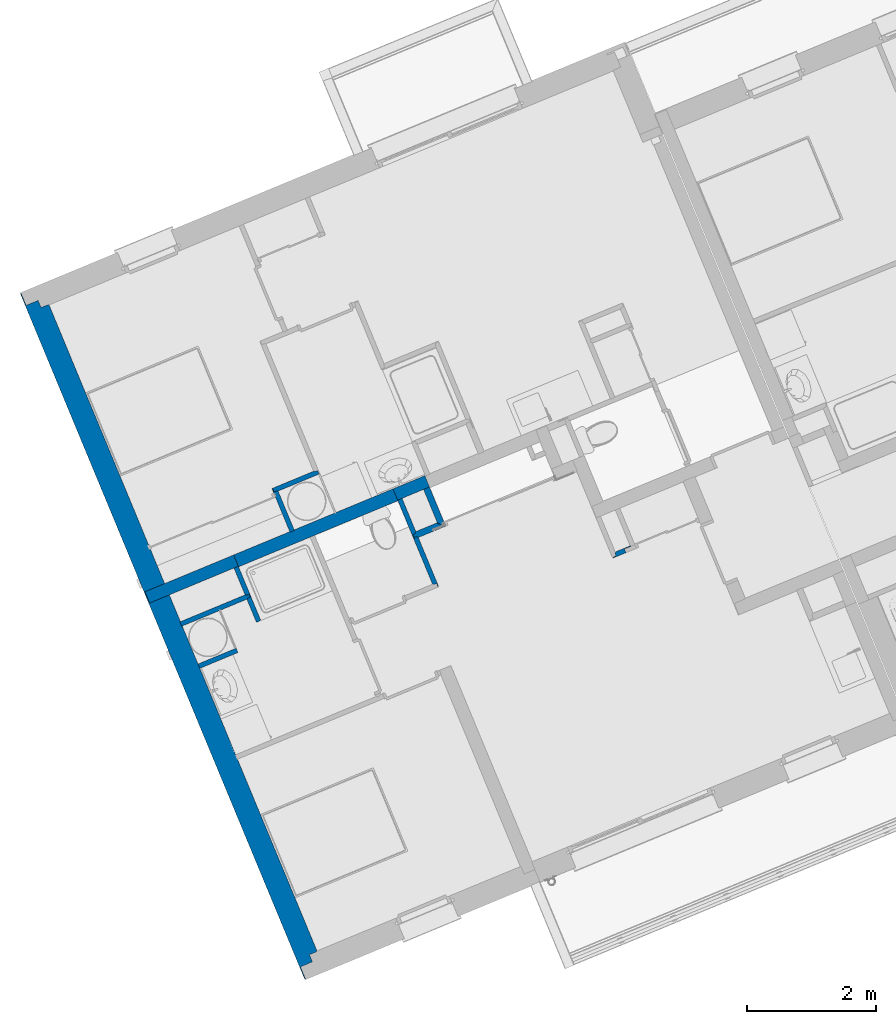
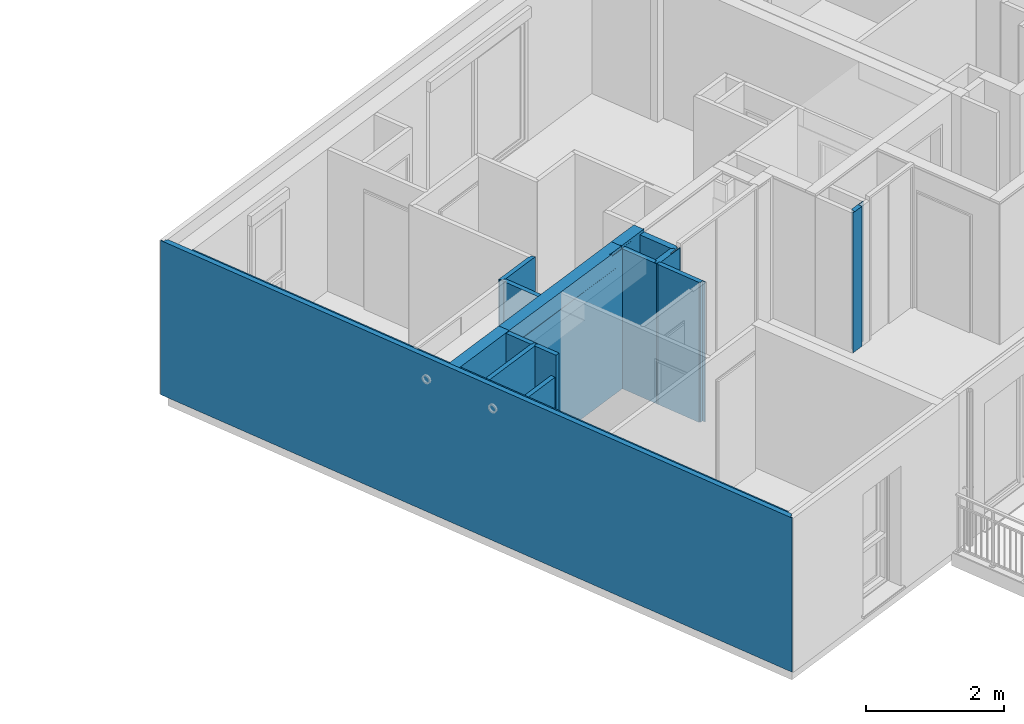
# One storey, part 39 of 90: 15 walls.
"""IFC2X3 building model written with IfcOpenShell, lengths in metres."""

from ifc_helpers import new_model, entity, si_unit, converted_unit, derived_unit, money_unit, direction, frame, origin_with_axes, place, context, subcontext, project, spatial, faceted_brep, material, material_list, type_object, element, save


model = new_model("IFC2X3")

# Units and contexts
model_context = context("Model", 3, precision=1e-05, world=origin_with_axes(), true_north=direction((0.0, 1.0)))
body_context = subcontext(model_context, "Body", "Model", "MODEL_VIEW")
ifc_project = project(units=[si_unit("LENGTHUNIT", "METRE"), si_unit("AREAUNIT", "SQUARE_METRE"), si_unit("VOLUMEUNIT", "CUBIC_METRE"), converted_unit("PLANEANGLEUNIT", "DEGREE", entity("IfcPlaneAngleMeasure", 0.0174532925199), si_unit("PLANEANGLEUNIT", "RADIAN"), dimensions=[0, 0, 0, 0, 0, 0, 0]), si_unit("SOLIDANGLEUNIT", "STERADIAN"), money_unit("EUR"), converted_unit("TIMEUNIT", "Year", entity("IfcTimeMeasure", 31556926.0), si_unit("TIMEUNIT", "SECOND"), dimensions=[0, 0, 1, 0, 0, 0, 0]), si_unit("MASSUNIT", "GRAM", prefix="KILO"), si_unit("THERMODYNAMICTEMPERATUREUNIT", "DEGREE_CELSIUS"), si_unit("LUMINOUSINTENSITYUNIT", "LUMEN"), si_unit("ENERGYUNIT", "JOULE", prefix="MEGA"), derived_unit("THERMALCONDUCTANCEUNIT", [(si_unit("POWERUNIT", "WATT"), 1), (si_unit("LENGTHUNIT", "METRE"), -1), (si_unit("THERMODYNAMICTEMPERATUREUNIT", "KELVIN"), -1)]), derived_unit("SPECIFICHEATCAPACITYUNIT", [(si_unit("ENERGYUNIT", "JOULE"), 1), (si_unit("MASSUNIT", "GRAM", prefix="KILO"), -1), (si_unit("THERMODYNAMICTEMPERATUREUNIT", "KELVIN"), -1)]), derived_unit("MASSDENSITYUNIT", [(si_unit("MASSUNIT", "GRAM", prefix="KILO"), 1), (si_unit("VOLUMEUNIT", "CUBIC_METRE"), -1)])], contexts=[model_context])

# Site, building, storey
site_placement = place(None, origin_with_axes())
site = spatial("IfcSite", under=ifc_project, at=site_placement, Name="Site", CompositionType="ELEMENT")
building_placement = place(site_placement, origin_with_axes())
building = spatial("IfcBuilding", under=site, at=building_placement, Name="Bâtiment", CompositionType="ELEMENT")
storey_placement = place(building_placement, frame((0.0, 0.0, 2.72), z_axis=(0.0, 0.0, 1.0), x_axis=(1.0, 0.0, 0.0)))
storey = spatial("IfcBuildingStorey", under=building, at=storey_placement, Name="R+1", CompositionType="ELEMENT", Elevation=2.72)

# Walls
ifc_material_1 = material(Name="Finition int - Plaque de plâtre")
ifc_material_2 = material(Name="Isolation - Polystyrène extrudé")
ifc_material_3 = material(Name="Bloc ELITHERM")
ifc_material_4 = material(Name="Isolation - Polystyrène expansé")
ifc_material_5 = material(Name="Mortier")
ifc_material_6 = material(Name="Béton cellulaire")
ifc_material_7 = material(Name="Finition ext - Crépis")
ifc_material_list_1 = material_list([ifc_material_1, ifc_material_2, ifc_material_3, ifc_material_4, ifc_material_5, ifc_material_6, ifc_material_7])
wall_type_1 = type_object("IfcWallType", Name="Mur ALKERN + planelle 21 345 x 2720", PredefinedType="USERDEFINED")
wall_1_placement = place(storey_placement, frame((-35.4006367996, -17.9386027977, 0.0), z_axis=(0.0, 0.0, 1.0), x_axis=(0.383112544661, -0.923701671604, 0.0)))
element("IfcWall", 1, at=wall_1_placement, inside=storey, type_object=wall_type_1, material=ifc_material_list_1, Name="Mue bloc ALKERN isolé", ObjectType="SOLIDWALL", context=body_context, shape_type="Brep", body=[
    faceted_brep([(11.1871872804, 0.34499998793, 0.0), (0.344999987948, 0.34499998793, 0.0), (0.344999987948, 0.34499998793, 2.51), (11.1871872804, 0.34499998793, 2.51), (11.1871872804, 0.335000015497, 0.0), (0.344999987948, 0.335000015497, 0.0), (0.344999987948, 0.335000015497, 2.51), (11.1871872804, 0.335000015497, 2.51)], [[[0, 1, 2, 3]], [[4, 5, 1, 0]], [[5, 6, 2, 1]], [[3, 2, 6, 7]], [[4, 0, 3, 7]], [[7, 6, 5, 4]]]),
    faceted_brep([(11.1971872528, 0.335000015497, 0.0), (0.335000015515, 0.335000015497, 0.0), (0.335000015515, 0.335000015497, 2.51), (11.1971872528, 0.335000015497, 2.51), (11.1971872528, 0.215000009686, 0.0), (0.335000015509, 0.215000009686, 0.0), (0.335000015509, 0.215000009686, 2.51), (11.1971872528, 0.215000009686, 2.51)], [[[0, 1, 2, 3]], [[4, 5, 1, 0]], [[5, 6, 2, 1]], [[3, 2, 6, 7]], [[4, 0, 3, 7]], [[7, 6, 5, 4]]]),
    faceted_brep([(0.214999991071, 0.214999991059, 0.0), (0.214999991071, 0.214999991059, 2.50999999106), (11.3171872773, 0.214999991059, 2.50999999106), (11.3171872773, 0.214999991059, 0.0), (0.214999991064, 0.0829999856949, 2.50999999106), (0.21499999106, 0.015, 0.0), (0.21499999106, 0.015, 2.50999999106), (11.3171872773, 0.0829999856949, 2.50999999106), (11.3171872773, 0.015, 2.50999999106), (11.3171872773, 0.015, 0.0)], [[[0, 1, 2, 3]], [[4, 1, 0, 5, 6]], [[1, 4, 7, 2]], [[3, 2, 7, 8, 9]], [[5, 0, 3, 9]], [[6, 5, 9, 8]], [[4, 6, 8, 7]]]),
    faceted_brep([(11.4491872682, 0.083000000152, 2.51999999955), (0.0830000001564, 0.083000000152, 2.51999999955), (0.0830000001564, 0.083000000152, 2.72), (11.4491872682, 0.083000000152, 2.72), (11.4491872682, 0.0630000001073, 2.51999999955), (0.0830000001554, 0.0630000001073, 2.51999999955), (0.0830000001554, 0.0630000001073, 2.72), (11.4491872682, 0.0630000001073, 2.72)], [[[0, 1, 2, 3]], [[4, 5, 1, 0]], [[5, 6, 2, 1]], [[3, 2, 6, 7]], [[4, 0, 3, 7]], [[7, 6, 5, 4]]]),
    faceted_brep([(0.0830000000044, 0.083, 2.51), (0.0830000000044, 0.083, 2.52), (11.4491872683, 0.083, 2.52), (11.4491872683, 0.083, 2.51), (0.0830000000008, 0.015, 2.52), (0.0830000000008, 0.015, 2.51), (11.4491872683, 0.015, 2.52), (11.4491872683, 0.015, 2.51)], [[[0, 1, 2, 3]], [[4, 1, 0, 5]], [[1, 4, 6, 2]], [[3, 2, 6, 7]], [[5, 0, 3, 7]], [[4, 5, 7, 6]]]),
    faceted_brep([(0.0629999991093, 0.0629999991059, 2.51999999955), (0.0629999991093, 0.0629999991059, 2.72), (11.4691872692, 0.0629999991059, 2.72), (11.4691872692, 0.0629999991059, 2.51999999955), (0.0629999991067, 0.015, 2.72), (0.0629999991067, 0.015, 2.51999999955), (11.4691872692, 0.015, 2.72), (11.4691872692, 0.015, 2.51999999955)], [[[0, 1, 2, 3]], [[4, 1, 0, 5]], [[1, 4, 6, 2]], [[3, 2, 6, 7]], [[5, 0, 3, 7]], [[4, 5, 7, 6]]]),
    faceted_brep([(0.0149999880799, 0.0149999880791, 2.72), (11.5171872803, 0.014999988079, 2.72), (11.5171872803, 0.014999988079, 0.0), (0.0149999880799, 0.0149999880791, 0.0), (0.0149999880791, 0.0, 2.72), (11.5171872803, 1.19209317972e-08, 2.72), (11.5171872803, 1.19209317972e-08, 0.0), (0.0149999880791, 0.0, 0.0)], [[[0, 1, 2, 3]], [[1, 0, 4, 5]], [[2, 1, 5, 6]], [[6, 7, 3, 2]], [[7, 4, 0, 3]], [[5, 4, 7, 6]]]),
])
ifc_material_8 = material(Name="Isolation - Laine de roche")
ifc_material_list_2 = material_list([ifc_material_1, ifc_material_8, ifc_material_1])
wall_type_2 = type_object("IfcWallType", Name="3 - Cloison 72mm Placostil 74", PredefinedType="USERDEFINED")
wall_2_placement = place(storey_placement, frame((-31.2182617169, -21.6405615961, 0.0), z_axis=(0.0, 0.0, 1.0), x_axis=(-0.383112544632, 0.923701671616, 0.0)))
element("IfcWall", 2, at=wall_2_placement, inside=storey, type_object=wall_type_2, material=ifc_material_list_2, Name="Cloison Placostil 72/48", ObjectType="PARTITIONING", context=body_context, shape_type="Brep", body=[
    faceted_brep([(0.589000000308, -0.013, 2.5), (0.58900000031, 0.0, 2.5), (-0.01, 0.0, 2.5), (-0.00999999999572, -0.013, 2.5), (0.589000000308, -0.013, 0.0), (0.58900000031, 0.0, 0.0), (-0.01, 0.0, 0.0), (-0.00999999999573, -0.013, 0.0)], [[[0, 1, 2, 3]], [[1, 0, 4, 5]], [[1, 5, 6, 2]], [[7, 3, 2, 6]], [[4, 0, 3, 7]], [[5, 4, 7, 6]]]),
    faceted_brep([(0.711000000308, -0.013, 2.5), (0.71100000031, 0.0, 2.5), (0.63700000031, 0.0, 2.5), (0.637000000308, -0.013, 2.5), (0.711000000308, -0.013, 0.0), (0.71100000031, 0.0, 0.0), (0.63700000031, 0.0, 0.0), (0.637000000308, -0.013, 0.0)], [[[0, 1, 2, 3]], [[1, 0, 4, 5]], [[1, 5, 6, 2]], [[7, 3, 2, 6]], [[4, 0, 3, 7]], [[5, 4, 7, 6]]]),
    faceted_brep([(0.663000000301, -0.061, 2.5), (0.663000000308, -0.013, 2.5), (-0.00999999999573, -0.013, 2.5), (-0.00999999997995, -0.061, 2.5), (0.663000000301, -0.061, 0.0), (0.663000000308, -0.013, 0.0), (-0.00999999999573, -0.013, 0.0), (-0.00999999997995, -0.061, 0.0)], [[[0, 1, 2, 3]], [[1, 0, 4, 5]], [[1, 5, 6, 2]], [[7, 3, 2, 6]], [[4, 0, 3, 7]], [[5, 4, 7, 6]]]),
    faceted_brep([(0.650000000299, -0.074, 2.5), (0.650000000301, -0.061, 2.5), (-0.00999999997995, -0.061, 2.5), (-0.00999999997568, -0.074, 2.5), (0.650000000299, -0.074, 0.0), (0.650000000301, -0.061, 0.0), (-0.00999999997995, -0.061, 0.0), (-0.00999999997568, -0.074, 0.0)], [[[0, 1, 2, 3]], [[1, 0, 4, 5]], [[1, 5, 6, 2]], [[7, 3, 2, 6]], [[4, 0, 3, 7]], [[5, 4, 7, 6]]]),
])
wall_3_placement = place(storey_placement, frame((-28.9087260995, -22.4949369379, 0.0), z_axis=(0.0, 0.0, 1.0), x_axis=(-0.383112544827, 0.923701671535, 0.0)))
element("IfcWall", 3, at=wall_3_placement, inside=storey, type_object=wall_type_2, material=ifc_material_list_2, Name="Cloison Placostil 72/48", ObjectType="PARTITIONING", context=body_context, shape_type="Brep", body=[
    faceted_brep([(0.826636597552, 0.061, 2.47), (0.0740000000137, 0.061, 2.47), (0.0740000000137, 0.061, 0.0), (0.826636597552, 0.061, 0.0), (0.0740000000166, 0.074, 2.47), (0.82663659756, 0.074, 2.47), (0.0740000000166, 0.074, 0.0), (0.82663659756, 0.074, 0.0)], [[[0, 1, 2, 3]], [[4, 1, 0, 5]], [[1, 4, 6, 2]], [[6, 7, 3, 2]], [[5, 0, 3, 7]], [[4, 5, 7, 6]]]),
    faceted_brep([(0.852636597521, 0.013, 2.47), (0.0610000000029, 0.013, 2.47), (0.0610000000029, 0.013, 0.0), (0.852636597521, 0.013, 0.0), (0.0610000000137, 0.061, 2.47), (0.852636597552, 0.061, 2.47), (0.0610000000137, 0.061, 0.0), (0.852636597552, 0.061, 0.0)], [[[0, 1, 2, 3]], [[4, 1, 0, 5]], [[1, 4, 6, 2]], [[6, 7, 3, 2]], [[5, 0, 3, 7]], [[4, 5, 7, 6]]]),
    faceted_brep([(0.826636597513, 0.0, 2.47), (0.013, 0.0, 2.47), (0.013, 0.0, 0.0), (0.826636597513, 0.0, 0.0), (0.0130000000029, 0.013, 2.47), (0.826636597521, 0.013, 2.47), (0.0130000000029, 0.013, 0.0), (0.826636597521, 0.013, 0.0)], [[[0, 1, 2, 3]], [[4, 1, 0, 5]], [[1, 4, 6, 2]], [[6, 7, 3, 2]], [[5, 0, 3, 7]], [[4, 5, 7, 6]]]),
])
wall_4_placement = place(storey_placement, frame((-26.2126020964, -22.0522410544, 0.0), z_axis=(0.0, 0.0, 1.0), x_axis=(0.923701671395, 0.383112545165, 0.0)))
element("IfcWall", 4, at=wall_4_placement, inside=storey, type_object=wall_type_2, material=ifc_material_list_2, Name="Cloison Placostil 72/48", ObjectType="PARTITIONING", context=body_context, shape_type="Brep", body=[
    faceted_brep([(0.336999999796, 0.074, 2.47), (0.33699999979, 0.061, 2.47), (0.33699999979, 0.061, 0.0), (0.336999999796, 0.074, 0.0), (0.0740000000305, 0.061, 2.47), (0.074000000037, 0.074, 2.47), (0.0740000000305, 0.061, 0.0), (0.074000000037, 0.074, 0.0)], [[[0, 1, 2, 3]], [[4, 1, 0, 5]], [[1, 4, 6, 2]], [[7, 3, 2, 6]], [[5, 0, 3, 7]], [[4, 5, 7, 6]]]),
    faceted_brep([(0.223999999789, 0.0610000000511, 2.47), (0.223999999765, 0.0130000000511, 2.47), (0.223999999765, 0.0130000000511, 0.0), (0.223999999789, 0.0610000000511, 0.0), (0.0610000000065, 0.013, 2.47), (0.0610000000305, 0.061, 2.47), (0.0610000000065, 0.013, 0.0), (0.0610000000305, 0.061, 0.0)], [[[0, 1, 2, 3]], [[4, 1, 0, 5]], [[1, 4, 6, 2]], [[7, 3, 2, 6]], [[5, 0, 3, 7]], [[4, 5, 7, 6]]]),
    faceted_brep([(0.223999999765, 0.0130000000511, 2.47), (0.223999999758, 0.0, 2.47), (0.223999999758, 0.0, 0.0), (0.223999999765, 0.0130000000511, 0.0), (0.013, 0.0, 2.47), (0.0130000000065, 0.013, 2.47), (0.013, 0.0, 0.0), (0.0130000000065, 0.013, 0.0)], [[[0, 1, 2, 3]], [[4, 1, 0, 5]], [[1, 4, 6, 2]], [[7, 3, 2, 6]], [[5, 0, 3, 7]], [[4, 5, 7, 6]]]),
])
wall_5_placement = place(storey_placement, frame((-30.8490440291, -20.7036228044, 0.0), z_axis=(0.0, 0.0, 1.0), x_axis=(-0.923701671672, -0.383112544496, 0.0)))
element("IfcWall", 5, at=wall_5_placement, inside=storey, type_object=wall_type_2, material=ifc_material_list_2, Name="Cloison Placostil 72/48", ObjectType="PARTITIONING", context=body_context, shape_type="Brep", body=[
    faceted_brep([(0.638999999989, 0.074, 0.0), (0.638999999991, 0.061, 0.0), (-0.074000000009, 0.061, 0.0), (-0.0740000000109, 0.074, 0.0), (0.638999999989, 0.074, 2.5), (0.638999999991, 0.061, 2.5), (-0.074000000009, 0.061, 2.5), (-0.0740000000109, 0.074, 2.5)], [[[0, 1, 2, 3]], [[1, 0, 4, 5]], [[1, 5, 6, 2]], [[7, 3, 2, 6]], [[4, 0, 3, 7]], [[5, 4, 7, 6]]]),
    faceted_brep([(0.686999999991, 0.061, 0.0), (0.686999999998, 0.013, 0.0), (-0.0610000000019, 0.013, 0.0), (-0.061000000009, 0.061, 0.0), (0.686999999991, 0.061, 2.5), (0.686999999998, 0.013, 2.5), (-0.0610000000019, 0.013, 2.5), (-0.061000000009, 0.061, 2.5)], [[[0, 1, 2, 3]], [[1, 0, 4, 5]], [[1, 5, 6, 2]], [[7, 3, 2, 6]], [[4, 0, 3, 7]], [[5, 4, 7, 6]]]),
    faceted_brep([(0.699999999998, 0.013, 0.0), (0.7, 0.0, 0.0), (-0.013, 0.0, 0.0), (-0.0130000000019, 0.013, 0.0), (0.699999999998, 0.013, 2.5), (0.7, 0.0, 2.5), (-0.013, 0.0, 2.5), (-0.0130000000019, 0.013, 2.5)], [[[0, 1, 2, 3]], [[1, 0, 4, 5]], [[1, 5, 6, 2]], [[7, 3, 2, 6]], [[4, 0, 3, 7]], [[5, 4, 7, 6]]]),
])
wall_6_placement = place(storey_placement, frame((-31.6669648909, -23.0175254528, 0.0), z_axis=(0.0, 0.0, 1.0), x_axis=(-0.383112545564, 0.923701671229, 0.0)))
element("IfcWall", 6, at=wall_6_placement, inside=storey, type_object=wall_type_2, material=ifc_material_list_2, Name="Cloison Placostil 72/48", ObjectType="PARTITIONING", context=body_context, shape_type="Brep", body=[
    faceted_brep([(0.0, 0.061, 0.0), (0.387000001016, 0.061, 0.0), (0.387000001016, 0.061, 2.5), (0.0, 0.061, 2.5), (0.0, 0.074, 0.0), (0.387000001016, 0.074, 0.0), (0.387000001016, 0.074, 2.5), (0.0, 0.074, 2.5)], [[[0, 1, 2, 3]], [[4, 5, 1, 0]], [[5, 6, 2, 1]], [[3, 2, 6, 7]], [[0, 3, 7, 4]], [[7, 6, 5, 4]]]),
    faceted_brep([(0.0, 0.013, 0.0), (0.400000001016, 0.013, 0.0), (0.400000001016, 0.013, 2.5), (0.0, 0.013, 2.5), (0.0, 0.061, 0.0), (0.400000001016, 0.061, 0.0), (0.400000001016, 0.061, 2.5), (0.0, 0.061, 2.5)], [[[0, 1, 2, 3]], [[4, 5, 1, 0]], [[5, 6, 2, 1]], [[3, 2, 6, 7]], [[0, 3, 7, 4]], [[7, 6, 5, 4]]]),
    faceted_brep([(0.0, 0.0, 0.0), (0.387000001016, 0.0, 0.0), (0.387000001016, 0.0, 2.5), (0.0, 0.0, 2.5), (0.0, 0.013, 0.0), (0.387000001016, 0.013, 0.0), (0.387000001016, 0.013, 2.5), (0.0, 0.013, 2.5)], [[[0, 1, 2, 3]], [[4, 5, 1, 0]], [[5, 6, 2, 1]], [[3, 2, 6, 7]], [[0, 3, 7, 4]], [[7, 6, 5, 4]]]),
])
wall_7_placement = place(storey_placement, frame((-32.612626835, -23.7601022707, 0.0), z_axis=(0.0, 0.0, 1.0), x_axis=(0.92370167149, 0.383112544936, 0.0)))
element("IfcWall", 7, at=wall_7_placement, inside=storey, type_object=wall_type_2, material=ifc_material_list_2, Name="Cloison Placostil 72/48", ObjectType="PARTITIONING", context=body_context, shape_type="Brep", body=[
    faceted_brep([(0.0, 0.074, 0.0), (0.640000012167, 0.074, 0.0), (0.640000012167, 0.061, 0.0), (0.0, 0.061, 0.0), (0.0, 0.074, 2.5), (0.640000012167, 0.074, 2.5), (0.640000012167, 0.061, 2.5), (0.0, 0.061, 2.5)], [[[0, 1, 2, 3]], [[4, 5, 1, 0]], [[2, 1, 5, 6]], [[3, 2, 6, 7]], [[4, 0, 3, 7]], [[7, 6, 5, 4]]]),
    faceted_brep([(0.0, 0.061, 0.0), (0.640000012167, 0.061, 0.0), (0.640000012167, 0.013, 0.0), (0.0, 0.013, 0.0), (0.0, 0.061, 2.5), (0.640000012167, 0.061, 2.5), (0.640000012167, 0.013, 2.5), (0.0, 0.013, 2.5)], [[[0, 1, 2, 3]], [[4, 5, 1, 0]], [[2, 1, 5, 6]], [[3, 2, 6, 7]], [[4, 0, 3, 7]], [[7, 6, 5, 4]]]),
    faceted_brep([(0.0, 0.013, 0.0), (0.640000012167, 0.013, 0.0), (0.640000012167, 0.0, 0.0), (0.0, 0.0, 0.0), (0.0, 0.013, 2.5), (0.640000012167, 0.013, 2.5), (0.640000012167, 0.0, 2.5), (0.0, 0.0, 2.5)], [[[0, 1, 2, 3]], [[4, 5, 1, 0]], [[2, 1, 5, 6]], [[3, 2, 6, 7]], [[4, 0, 3, 7]], [[7, 6, 5, 4]]]),
])
ifc_material_9 = material(Name="Finition int - Enduit plâtre")
ifc_material_10 = material(Name="Béton")
ifc_material_list_3 = material_list([ifc_material_9, ifc_material_10, ifc_material_9])
wall_type_3 = type_object("IfcWallType", Name="2 - Murs Béton 18 + Enduit 2 Faces 200", PredefinedType="USERDEFINED")
wall_8_placement = place(storey_placement, frame((-32.0883886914, -22.0014536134, 0.0), z_axis=(0.0, 0.0, 1.0), x_axis=(0.92370167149, 0.383112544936, 0.0)))
element("IfcWall", 8, at=wall_8_placement, inside=storey, type_object=wall_type_3, material=ifc_material_list_3, Name="M_Ext-008", ObjectType="SOLIDWALL", context=body_context, shape_type="Brep", body=[
    faceted_brep([(2.67399999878, 0.0, 2.51), (2.67399999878, -0.01, 2.51), (2.67399999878, -0.01, 0.0), (2.67399999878, 0.0, 0.0), (0.0, -0.01, 2.51), (0.0, 0.0, 2.51), (0.0, -0.01, 0.0), (0.941999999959, -0.01, 0.0), (0.941999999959, -0.01, 2.5), (1.01599999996, -0.01, 2.5), (1.01599999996, -0.01, 0.0), (1.69600000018, -0.01, 0.0), (1.69600000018, -0.01, 1.0), (1.71600000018, -0.01, 1.0), (1.71600000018, -0.01, 0.0), (1.71600000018, 0.0, 0.0), (1.71600000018, 0.0, 1.0), (1.69600000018, 0.0, 1.0), (1.69600000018, 0.0, 0.0), (1.01599999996, 0.0, 0.0), (1.01599999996, 0.0, 2.5), (0.941999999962, 0.0, 2.5), (0.941999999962, 0.0, 0.0), (0.0, 0.0, 0.0)], [[[0, 1, 2, 3]], [[4, 1, 0, 5]], [[1, 4, 6, 7, 8, 9, 10, 11, 12, 13, 14, 2]], [[2, 14, 15, 3]], [[5, 0, 3, 15, 16, 17, 18, 19, 20, 21, 22, 23]], [[4, 5, 23, 6]], [[23, 22, 7, 6]], [[21, 8, 7, 22]], [[20, 9, 8, 21]], [[19, 10, 9, 20]], [[19, 18, 11, 10]], [[17, 12, 11, 18]], [[16, 13, 12, 17]], [[15, 14, 13, 16]]]),
    faceted_brep([(2.67399999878, -0.18919041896, 2.52), (2.67399999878, -0.18919041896, 2.47), (2.67399999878, -0.19, 2.47), (2.67399999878, -0.19, 0.0), (2.67399999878, -0.01, 0.0), (2.67399999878, -0.01, 2.51), (2.67399999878, -0.170454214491, 2.51), (2.67399999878, -0.170454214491, 2.52), (2.42692822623, -0.189106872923, 2.52), (2.42692822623, -0.189106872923, 2.47), (2.42692822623, -0.19, 2.47), (2.42692822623, -0.19, 2.52), (2.40692817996, -0.19, 2.52), (2.40692820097, -0.19, 2.51), (0.0, -0.19, 2.51), (0.0, -0.19, 0.0), (0.0, -0.01, 0.0), (0.0, -0.01, 2.51), (2.40692820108, -0.168273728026, 2.51), (2.40692820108, -0.168273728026, 2.52)], [[[0, 1, 2, 3, 4, 5, 6, 7]], [[1, 0, 8, 9]], [[10, 2, 1, 9]], [[10, 11, 12, 13, 14, 15, 3, 2]], [[16, 4, 3, 15]], [[17, 5, 4, 16]], [[6, 5, 17, 14, 13, 18]], [[19, 7, 6, 18]], [[8, 0, 7, 19, 12, 11]], [[8, 11, 10, 9]], [[13, 12, 19, 18]], [[14, 17, 16, 15]]]),
    faceted_brep([(0.0, -0.2, 0.02), (2.67399998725, -0.200000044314, 0.02), (2.67399999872, -0.200000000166, 2.21), (1.35209177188e-10, -0.2, 2.21), (0.0, -0.193021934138, 0.02), (2.67399998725, -0.200000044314, 0.0), (2.67399999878, -0.19, 0.0), (2.67399999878, -0.19, 2.47), (2.67399999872, -0.200000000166, 2.47), (1.29112720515e-10, -0.19, 2.21), (0.0, -0.19, 0.0), (0.0, -0.193021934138, 0.0), (2.42692822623, -0.19, 2.52), (2.42692822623, -0.19, 2.47), (1.29112720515e-10, -0.19, 2.51), (2.40692820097, -0.19, 2.51), (2.40692817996, -0.19, 2.52), (2.4269282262, -0.199076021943, 2.47), (2.4269282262, -0.199076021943, 2.51), (2.40692820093, -0.199001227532, 2.51), (2.4269282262, -0.2, 2.52), (2.4269282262, -0.200000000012, 2.51), (2.40692820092, -0.2, 2.51), (2.40692817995, -0.2, 2.52)], [[[0, 1, 2, 3]], [[1, 0, 4]], [[1, 5, 6, 7, 8, 2]], [[2, 9, 3]], [[4, 0, 3, 9, 10, 11]], [[5, 1, 4, 11]], [[5, 11, 10, 6]], [[12, 13, 7, 6, 10, 9, 14, 15, 16]], [[13, 17, 8, 7]], [[8, 17, 18, 19, 14, 9, 2]], [[13, 12, 20, 21, 18, 17]], [[19, 15, 14]], [[16, 15, 19, 22, 23]], [[23, 20, 12, 16]], [[19, 18, 21, 22]], [[22, 21, 20, 23]]]),
])
wall_type_4 = type_object("IfcWallType", Name="3 - Cloison Gaine Technique 72mm 74", PredefinedType="USERDEFINED")
wall_9_placement = place(storey_placement, frame((-31.8152294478, -22.6600529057, 0.0), z_axis=(0.0, 0.0, 1.0), x_axis=(-0.923701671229, -0.383112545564, 0.0)))
element("IfcWall", 9, at=wall_9_placement, inside=storey, type_object=wall_type_4, material=ifc_material_list_2, Name="Cloison Placostil 72/48", ObjectType="PARTITIONING", context=body_context, shape_type="Brep", body=[
    faceted_brep([(1.16799999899, 0.0, 0.0), (0.537999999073, 0.0, 0.0), (0.537999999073, 0.0, 1.0), (0.517999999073, 0.0, 1.0), (0.517999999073, 0.0, 0.0), (0.0609999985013, 0.0, 0.0), (0.0609999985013, 0.0, 2.5), (1.16799999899, 0.0, 2.5), (1.16799999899, -0.013, 0.0), (0.537999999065, -0.013, 0.0), (0.537999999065, -0.013, 1.0), (0.517999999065, -0.013, 1.0), (0.517999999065, -0.013, 0.0), (0.0609999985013, -0.013, 0.0), (0.0609999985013, -0.013, 2.5), (1.16799999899, -0.013, 2.5)], [[[0, 1, 2, 3, 4, 5, 6, 7]], [[8, 9, 1, 0]], [[10, 2, 1, 9]], [[11, 3, 2, 10]], [[12, 4, 3, 11]], [[5, 4, 12, 13]], [[13, 14, 6, 5]], [[7, 6, 14, 15]], [[0, 7, 15, 8]], [[11, 10, 9, 8, 15, 14, 13, 12]]]),
    faceted_brep([(-1.49868384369e-09, -0.013, 2.5), (0.0129999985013, -0.013, 2.5), (0.0129999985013, 0.0, 2.5), (-1.49868384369e-09, 0.0, 2.5), (-1.49868384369e-09, -0.013, 0.0), (0.0129999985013, -0.013, 0.0), (0.0129999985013, 0.0, 0.0), (-1.49868384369e-09, 0.0, 0.0)], [[[0, 1, 2, 3]], [[4, 5, 1, 0]], [[5, 6, 2, 1]], [[3, 2, 6, 7]], [[7, 4, 0, 3]], [[7, 6, 5, 4]]]),
    faceted_brep([(0.0129999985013, -0.013, 2.5), (0.0129999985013, -0.061, 2.5), (1.16799999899, -0.061, 2.5), (1.16799999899, -0.013, 2.5), (0.0129999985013, -0.013, 0.0), (0.0129999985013, -0.061, 0.0), (1.16799999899, -0.061, 0.0), (1.16799999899, -0.013, 0.0)], [[[0, 1, 2, 3]], [[4, 5, 1, 0]], [[1, 5, 6, 2]], [[7, 3, 2, 6]], [[4, 0, 3, 7]], [[5, 4, 7, 6]]]),
    faceted_brep([(0.0609999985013, -0.074, 2.5), (1.16799999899, -0.074, 2.5), (1.16799999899, -0.061, 2.5), (0.0609999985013, -0.061, 2.5), (0.0609999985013, -0.074, 0.0), (1.16799999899, -0.074, 0.0), (1.16799999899, -0.061, 0.0), (0.0609999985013, -0.061, 0.0)], [[[0, 1, 2, 3]], [[4, 5, 1, 0]], [[2, 1, 5, 6]], [[3, 2, 6, 7]], [[4, 0, 3, 7]], [[7, 6, 5, 4]]]),
])
wall_10_placement = place(storey_placement, frame((-31.8152294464, -22.6600529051, 0.0), z_axis=(0.0, 0.0, 1.0), x_axis=(-0.383112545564, 0.923701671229, 0.0)))
element("IfcWall", 10, at=wall_10_placement, inside=storey, type_object=wall_type_4, material=ifc_material_list_2, Name="Cloison Placostil 72/48", ObjectType="PARTITIONING", context=body_context, shape_type="Brep", body=[
    faceted_brep([(0.074, 0.074, 0.0), (0.523000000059, 0.074, 0.0), (0.523000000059, 0.061, 0.0), (0.074, 0.061, 0.0), (0.074, 0.074, 2.5), (0.523000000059, 0.074, 2.5), (0.523000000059, 0.061, 2.5), (0.074, 0.061, 2.5)], [[[0, 1, 2, 3]], [[4, 5, 1, 0]], [[2, 1, 5, 6]], [[3, 2, 6, 7]], [[4, 0, 3, 7]], [[7, 6, 5, 4]]]),
    faceted_brep([(0.061, 0.061, 0.0), (0.523000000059, 0.061, 0.0), (0.523000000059, 0.013, 0.0), (0.061, 0.013, 0.0), (0.061, 0.061, 2.5), (0.523000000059, 0.061, 2.5), (0.523000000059, 0.013, 2.5), (0.061, 0.013, 2.5)], [[[0, 1, 2, 3]], [[4, 5, 1, 0]], [[2, 1, 5, 6]], [[3, 2, 6, 7]], [[4, 0, 3, 7]], [[7, 6, 5, 4]]]),
    faceted_brep([(0.013, 0.0, 0.0), (0.013, 0.013, 0.0), (0.523000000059, 0.013, 0.0), (0.523000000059, 0.0, 0.0), (0.013, 0.0, 2.5), (0.013, 0.013, 2.5), (0.523000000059, 0.013, 2.5), (0.523000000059, 0.0, 2.5)], [[[0, 1, 2, 3]], [[4, 5, 1, 0]], [[1, 5, 6, 2]], [[7, 3, 2, 6]], [[4, 0, 3, 7]], [[5, 4, 7, 6]]]),
])
wall_11_placement = place(storey_placement, frame((-29.22542095, -21.7313713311, 0.0), z_axis=(0.0, 0.0, 1.0), x_axis=(-0.383112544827, 0.923701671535, 0.0)))
element("IfcWall", 11, at=wall_11_placement, inside=storey, type_object=wall_type_4, material=ifc_material_list_2, Name="Cloison Placostil 72/48", ObjectType="PARTITIONING", context=body_context, shape_type="Brep", body=[
    faceted_brep([(0.657363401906, 0.061, 2.47), (0.0260000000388, 0.061, 2.47), (0.0260000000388, 0.061, 0.0), (0.657363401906, 0.061, 0.0), (0.026000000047, 0.074, 2.47), (0.657363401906, 0.074, 2.47), (0.026000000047, 0.074, 0.0), (0.657363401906, 0.074, 0.0)], [[[0, 1, 2, 3]], [[4, 1, 0, 5]], [[1, 4, 6, 2]], [[2, 6, 7, 3]], [[5, 0, 3, 7]], [[4, 5, 7, 6]]]),
    faceted_brep([(0.657363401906, 0.013, 2.47), (0.0740000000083, 0.013, 2.47), (0.0740000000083, 0.013, 0.0), (0.657363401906, 0.013, 0.0), (0.0740000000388, 0.061, 2.47), (0.657363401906, 0.061, 2.47), (0.0740000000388, 0.061, 0.0), (0.657363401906, 0.061, 0.0)], [[[0, 1, 2, 3]], [[4, 1, 0, 5]], [[1, 4, 6, 2]], [[6, 7, 3, 2]], [[5, 0, 3, 7]], [[4, 5, 7, 6]]]),
    faceted_brep([(0.657363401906, 0.0, 2.47), (0.1, 0.0, 2.47), (0.1, 0.0, 0.0), (0.657363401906, 0.0, 0.0), (0.100000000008, 0.013, 2.47), (0.657363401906, 0.013, 2.47), (0.100000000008, 0.013, 0.0), (0.657363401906, 0.013, 0.0)], [[[0, 1, 2, 3]], [[4, 1, 0, 5]], [[1, 4, 6, 2]], [[6, 7, 3, 2]], [[5, 0, 3, 7]], [[4, 5, 7, 6]]]),
])
ifc_material_list_4 = material_list([ifc_material_9, ifc_material_10])
wall_type_5 = type_object("IfcWallType", Name="2 - Murs Béton 18 + Enduit 1 Face 190", PredefinedType="USERDEFINED")
wall_12_placement = place(storey_placement, frame((-29.618410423, -20.9770106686, 0.0), z_axis=(0.0, 0.0, 1.0), x_axis=(0.923701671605, 0.383112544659, 0.0)))
element("IfcWall", 12, at=wall_12_placement, inside=storey, type_object=wall_type_5, material=ifc_material_list_4, Name="M_Ext-008", ObjectType="SOLIDWALL", context=body_context, shape_type="Brep", body=[
    faceted_brep([(0.534000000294, 0.0, 2.51), (0.534000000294, -0.01, 2.51), (0.534000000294, -0.01, 0.0), (0.534000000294, 0.0, 0.0), (0.0, -0.01, 2.51), (0.0, 0.0, 2.51), (0.0, -0.01, 0.0), (0.0, 0.0, 0.0)], [[[0, 1, 2, 3]], [[4, 1, 0, 5]], [[1, 4, 6, 2]], [[7, 3, 2, 6]], [[5, 0, 3, 7]], [[4, 5, 7, 6]]]),
    faceted_brep([(0.534000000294, -0.18937098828, 2.52), (0.534000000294, -0.18937098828, 2.47), (0.534000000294, -0.19, 2.47), (0.534000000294, -0.19, 0.0), (0.534000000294, -0.01, 0.0), (0.534000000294, -0.01, 2.51), (0.534000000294, -0.174814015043, 2.51), (0.534000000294, -0.174814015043, 2.52), (0.0, -0.189190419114, 2.52), (0.0, -0.189190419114, 2.47), (0.0, -0.19, 2.47), (0.0, -0.19, 0.0), (0.0, -0.01, 0.0), (0.0, -0.01, 2.51), (0.0, -0.170454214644, 2.51), (0.0, -0.170454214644, 2.52)], [[[0, 1, 2, 3, 4, 5, 6, 7]], [[1, 0, 8, 9]], [[10, 2, 1, 9]], [[2, 10, 11, 3]], [[12, 4, 3, 11]], [[13, 5, 4, 12]], [[6, 5, 13, 14]], [[15, 7, 6, 14]], [[8, 0, 7, 15]], [[9, 8, 15, 14, 13, 12, 11, 10]]]),
])
wall_13_placement = place(storey_placement, frame((-33.4628567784, -22.5715250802, 0.0), z_axis=(0.0, 0.0, 1.0), x_axis=(0.92370167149, 0.383112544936, 0.0)))
element("IfcWall", 13, at=wall_13_placement, inside=storey, type_object=wall_type_5, material=ifc_material_list_4, Name="M_Ext-008", ObjectType="SOLIDWALL", context=body_context, shape_type="Brep", body=[
    faceted_brep([(1.48799999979, 0.0, 2.51), (1.48799999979, -0.01, 2.51), (1.48799999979, -0.01, 0.0), (1.48799999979, 0.0, 0.0), (0.0679999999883, -0.01, 2.51), (0.0679999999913, 0.0, 2.51), (0.0679999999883, -0.01, 2.52), (0.0, -0.01, 2.52), (0.0, -0.01, 0.0), (0.0, 0.0, 0.0), (0.0, 0.0, 2.52), (0.0679999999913, 0.0, 2.52)], [[[0, 1, 2, 3]], [[4, 1, 0, 5]], [[4, 6, 7, 8, 2, 1]], [[9, 3, 2, 8]], [[5, 0, 3, 9, 10, 11]], [[11, 6, 4, 5]], [[6, 11, 10, 7]], [[10, 9, 8, 7]]]),
    faceted_brep([(1.48799999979, -0.01, 2.51), (1.48799999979, -0.19, 2.51), (1.48799999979, -0.19, 0.0), (1.48799999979, -0.01, 0.0), (0.0679999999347, -0.19, 2.51), (0.0679999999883, -0.01, 2.51), (0.0679999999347, -0.19, 2.52), (0.0, -0.19, 2.52), (0.0, -0.19, 0.0), (0.0, -0.01, 0.0), (0.0, -0.01, 2.52), (0.0679999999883, -0.01, 2.52)], [[[0, 1, 2, 3]], [[4, 1, 0, 5]], [[4, 6, 7, 8, 2, 1]], [[9, 3, 2, 8]], [[5, 0, 3, 9, 10, 11]], [[11, 6, 4, 5]], [[6, 11, 10, 7]], [[10, 9, 8, 7]]]),
])
ifc_material_list_5 = material_list([ifc_material_1, ifc_material_1, ifc_material_8, ifc_material_1, ifc_material_1])
wall_type_6 = type_object("IfcWallType", Name="3 - Cloison Gaine Technique 98mm 100", PredefinedType="USERDEFINED")
wall_14_placement = place(storey_placement, frame((-28.8005181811, -21.5551395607, 0.0), z_axis=(0.0, 0.0, 1.0), x_axis=(-0.923701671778, -0.38311254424, 0.0)))
element("IfcWall", 14, at=wall_14_placement, inside=storey, type_object=wall_type_6, material=ifc_material_list_5, Name="Cloison 98 isolée", ObjectType="PARTITIONING", context=body_context, shape_type="Brep", body=[
    faceted_brep([(0.520999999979, -0.013, 2.47), (0.520999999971, 0.0, 2.47), (0.520999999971, 0.0, 0.0), (0.520999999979, -0.013, 0.0), (0.533999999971, 0.0, 2.47), (0.533999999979, -0.013, 2.47), (0.533999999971, 0.0, 0.0), (0.533999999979, -0.013, 0.0)], [[[0, 1, 2, 3]], [[4, 1, 0, 5]], [[1, 4, 6, 2]], [[7, 3, 2, 6]], [[5, 0, 3, 7]], [[4, 5, 7, 6]]]),
    faceted_brep([(0.0130000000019, -0.013, 2.47), (0.013, 0.0, 2.47), (0.013, 0.0, 0.0), (0.0130000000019, -0.013, 0.0), (0.472999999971, 0.0, 2.47), (0.472999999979, -0.013, 2.47), (0.472999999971, 0.0, 0.0), (0.472999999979, -0.013, 0.0)], [[[0, 1, 2, 3]], [[4, 1, 0, 5]], [[1, 4, 6, 2]], [[2, 6, 7, 3]], [[5, 0, 3, 7]], [[4, 5, 7, 6]]]),
    faceted_brep([(0.520999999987, -0.026, 2.47), (0.520999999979, -0.013, 2.47), (0.520999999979, -0.013, 0.0), (0.520999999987, -0.026, 0.0), (0.533999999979, -0.013, 2.47), (0.533999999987, -0.026, 2.47), (0.533999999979, -0.013, 0.0), (0.533999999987, -0.026, 0.0)], [[[0, 1, 2, 3]], [[4, 1, 0, 5]], [[1, 4, 6, 2]], [[7, 3, 2, 6]], [[5, 0, 3, 7]], [[4, 5, 7, 6]]]),
    faceted_brep([(0.200000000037, -0.0259999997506, 2.47), (0.200000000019, -0.012999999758, 2.47), (0.200000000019, -0.012999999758, 0.0), (0.200000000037, -0.0259999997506, 0.0), (0.472999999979, -0.013, 2.47), (0.472999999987, -0.026, 2.47), (0.472999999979, -0.013, 0.0), (0.472999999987, -0.026, 0.0)], [[[0, 1, 2, 3]], [[4, 1, 0, 5]], [[1, 4, 6, 2]], [[7, 3, 2, 6]], [[5, 0, 3, 7]], [[4, 5, 7, 6]]]),
    faceted_brep([(0.0740000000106, -0.074, 2.47), (0.0740000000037, -0.026, 2.47), (0.0740000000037, -0.026, 0.0), (0.0740000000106, -0.074, 0.0), (0.520999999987, -0.026, 2.47), (0.521000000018, -0.074, 2.47), (0.520999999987, -0.026, 0.0), (0.521000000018, -0.074, 0.0)], [[[0, 1, 2, 3]], [[4, 1, 0, 5]], [[1, 4, 6, 2]], [[2, 6, 7, 3]], [[5, 0, 3, 7]], [[4, 5, 7, 6]]]),
    faceted_brep([(0.0870000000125, -0.087, 2.47), (0.0870000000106, -0.074, 2.47), (0.0870000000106, -0.074, 0.0), (0.0870000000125, -0.087, 0.0), (0.473000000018, -0.074, 2.47), (0.473000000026, -0.087, 2.47), (0.473000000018, -0.074, 0.0), (0.473000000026, -0.087, 0.0)], [[[0, 1, 2, 3]], [[4, 1, 0, 5]], [[1, 4, 6, 2]], [[2, 6, 7, 3]], [[5, 0, 3, 7]], [[4, 5, 7, 6]]]),
    faceted_brep([(0.100000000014, -0.1, 2.47), (0.100000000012, -0.087, 2.47), (0.100000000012, -0.087, 0.0), (0.100000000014, -0.1, 0.0), (0.473000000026, -0.087, 2.47), (0.473000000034, -0.1, 2.47), (0.473000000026, -0.087, 0.0), (0.473000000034, -0.1, 0.0)], [[[0, 1, 2, 3]], [[4, 1, 0, 5]], [[1, 4, 6, 2]], [[2, 6, 7, 3]], [[5, 0, 3, 7]], [[4, 5, 7, 6]]]),
])
wall_15_placement = place(storey_placement, frame((-28.8005181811, -21.5551395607, 0.0), z_axis=(0.0, 0.0, 1.0), x_axis=(-0.383112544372, 0.923701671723, 0.0)))
element("IfcWall", 15, at=wall_15_placement, inside=storey, type_object=wall_type_6, material=ifc_material_list_5, Name="Cloison 98 isolée", ObjectType="PARTITIONING", context=body_context, shape_type="Brep", body=[
    faceted_brep([(0.657363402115, 0.087, 2.47), (0.0870000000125, 0.087, 2.47), (0.0870000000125, 0.087, 0.0), (0.657363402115, 0.087, 0.0), (0.0870000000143, 0.1, 2.47), (0.657363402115, 0.1, 2.47), (0.0870000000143, 0.1, 0.0), (0.657363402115, 0.1, 0.0)], [[[0, 1, 2, 3]], [[4, 1, 0, 5]], [[1, 4, 6, 2]], [[2, 6, 7, 3]], [[5, 0, 3, 7]], [[4, 5, 7, 6]]]),
    faceted_brep([(0.657363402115, 0.074, 2.47), (0.0740000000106, 0.074, 2.47), (0.0740000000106, 0.074, 0.0), (0.657363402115, 0.074, 0.0), (0.0740000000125, 0.087, 2.47), (0.657363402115, 0.087, 2.47), (0.0740000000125, 0.087, 0.0), (0.657363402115, 0.087, 0.0)], [[[0, 1, 2, 3]], [[4, 1, 0, 5]], [[1, 4, 6, 2]], [[2, 6, 7, 3]], [[5, 0, 3, 7]], [[4, 5, 7, 6]]]),
    faceted_brep([(0.657363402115, 0.026, 2.47), (0.0260000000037, 0.026, 2.47), (0.0260000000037, 0.026, 0.0), (0.657363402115, 0.026, 0.0), (0.0260000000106, 0.074, 2.47), (0.657363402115, 0.074, 2.47), (0.0260000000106, 0.074, 0.0), (0.657363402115, 0.074, 0.0)], [[[0, 1, 2, 3]], [[4, 1, 0, 5]], [[1, 4, 6, 2]], [[2, 6, 7, 3]], [[5, 0, 3, 7]], [[4, 5, 7, 6]]]),
    faceted_brep([(0.657363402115, 0.013, 2.47), (0.0610000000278, 0.013, 2.47), (0.0610000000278, 0.013, 0.0), (0.657363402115, 0.013, 0.0), (0.0610000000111, 0.026, 2.47), (0.657363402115, 0.026, 2.47), (0.0610000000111, 0.026, 0.0), (0.657363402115, 0.026, 0.0)], [[[0, 1, 2, 3]], [[4, 1, 0, 5]], [[1, 4, 6, 2]], [[3, 2, 6, 7]], [[5, 0, 3, 7]], [[4, 5, 7, 6]]]),
    faceted_brep([(0.657363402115, 0.0, 2.47), (0.0610000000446, 0.0, 2.47), (0.0610000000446, 0.0, 0.0), (0.657363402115, 0.0, 0.0), (0.0610000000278, 0.013, 2.47), (0.657363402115, 0.013, 2.47), (0.0610000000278, 0.013, 0.0), (0.657363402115, 0.013, 0.0)], [[[0, 1, 2, 3]], [[4, 1, 0, 5]], [[1, 4, 6, 2]], [[3, 2, 6, 7]], [[5, 0, 3, 7]], [[4, 5, 7, 6]]]),
    faceted_brep([(0.0130000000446, 0.0, 2.47), (0.0, 0.0, 2.47), (0.0, 0.0, 0.0), (0.0130000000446, 0.0, 0.0), (0.0, 0.013, 2.47), (0.0130000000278, 0.013, 2.47), (0.0, 0.013, 0.0), (0.0130000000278, 0.013, 0.0)], [[[0, 1, 2, 3]], [[4, 1, 0, 5]], [[1, 4, 6, 2]], [[6, 7, 3, 2]], [[5, 0, 3, 7]], [[4, 5, 7, 6]]]),
])

save(model, "model.ifc")
